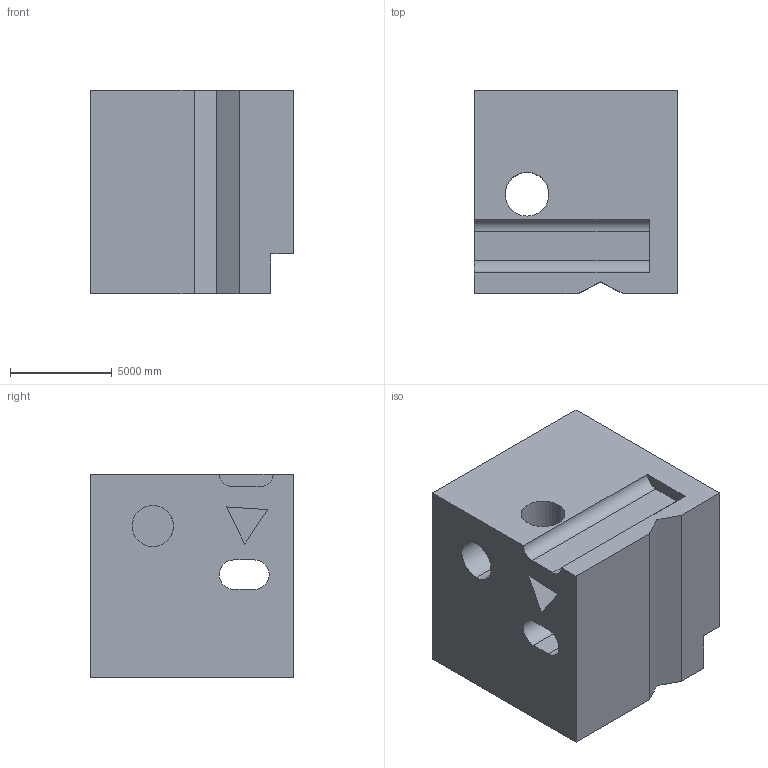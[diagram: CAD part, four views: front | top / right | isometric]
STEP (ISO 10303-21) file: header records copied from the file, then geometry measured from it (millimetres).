
FILE_DESCRIPTION (( 'STEP AP203' ), '1' );
FILE_NAME ('1853.STEP', '2022-08-19T13:33:48', ( 'user' ), ( '' ), 'SwSTEP 2.0', 'SolidWorks 2021', '' );
FILE_SCHEMA (( 'CONFIG_CONTROL_DESIGN' ));
Length unit declared in the file: centimetre
Products named in the file (1): 1853
Bounding box: 10000 x 10000 x 10000 mm (x, y, z)
Volume: 851629552238.3 mm3; surface area: 800815628.2 mm2
Topology: 1 solids, 1 shells, 38 faces, 104 edges, 70 vertices
Faces by surface type: plane 29, cylinder 9
Entity records: 1496 total; most frequent: CARTESIAN_POINT 422, ORIENTED_EDGE 208, DIRECTION 198, EDGE_CURVE 104, VECTOR 84, LINE 84, VERTEX_POINT 70, AXIS2_PLACEMENT_3D 57
